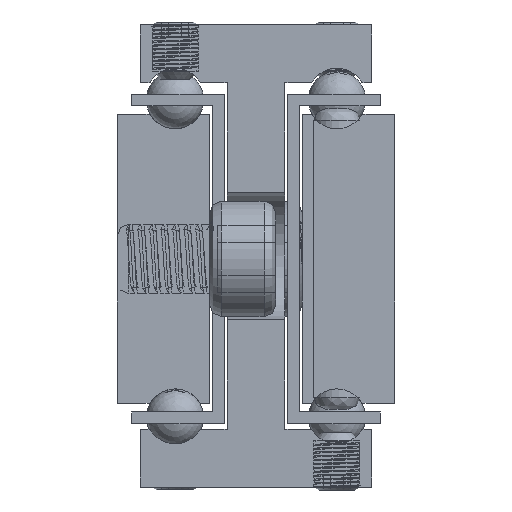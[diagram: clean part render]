
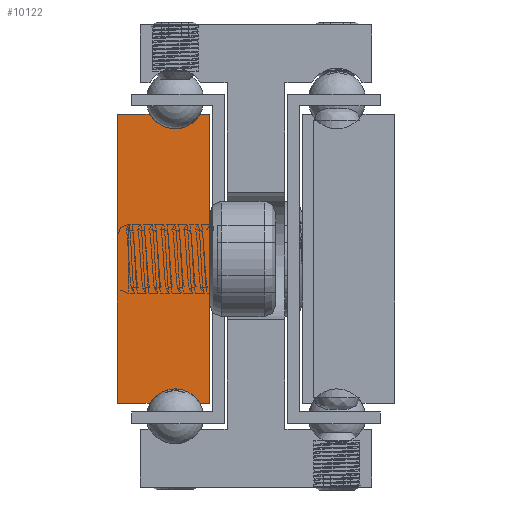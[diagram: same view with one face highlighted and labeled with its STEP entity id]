
A CAD part, front view. The second image highlights one B-rep face of the part: STEP entity #10122.
In plain terms, the highlighted planar face has unit normal (0, -1, 0).
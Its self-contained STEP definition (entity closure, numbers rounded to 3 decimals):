
#696=CIRCLE('',#10847,2.5);
#698=CIRCLE('',#10853,2.5);
#1238=FACE_OUTER_BOUND('',#1877,.T.);
#1877=EDGE_LOOP('',(#7287,#7288,#7289,#7290,#7291,#7292,#7293,#7294));
#2741=LINE('',#22548,#3671);
#2744=LINE('',#22554,#3674);
#2748=LINE('',#22566,#3678);
#2751=LINE('',#22572,#3681);
#2754=LINE('',#22578,#3684);
#2758=LINE('',#22588,#3688);
#3671=VECTOR('',#11837,1.);
#3674=VECTOR('',#11842,1.);
#3678=VECTOR('',#11854,1.);
#3681=VECTOR('',#11859,1.);
#3684=VECTOR('',#11864,1.);
#3688=VECTOR('',#11876,1.);
#4621=VERTEX_POINT('',#22545);
#4622=VERTEX_POINT('',#22547);
#4624=VERTEX_POINT('',#22553);
#4626=VERTEX_POINT('',#22559);
#4628=VERTEX_POINT('',#22565);
#4630=VERTEX_POINT('',#22571);
#4632=VERTEX_POINT('',#22577);
#4634=VERTEX_POINT('',#22583);
#5710=EDGE_CURVE('',#4622,#4621,#2741,.T.);
#5713=EDGE_CURVE('',#4624,#4622,#2744,.T.);
#5716=EDGE_CURVE('',#4626,#4624,#696,.T.);
#5719=EDGE_CURVE('',#4628,#4626,#2748,.T.);
#5722=EDGE_CURVE('',#4630,#4628,#2751,.T.);
#5725=EDGE_CURVE('',#4632,#4630,#2754,.T.);
#5728=EDGE_CURVE('',#4634,#4632,#698,.T.);
#5731=EDGE_CURVE('',#4621,#4634,#2758,.T.);
#7287=ORIENTED_EDGE('',*,*,#5731,.T.);
#7288=ORIENTED_EDGE('',*,*,#5728,.T.);
#7289=ORIENTED_EDGE('',*,*,#5725,.T.);
#7290=ORIENTED_EDGE('',*,*,#5722,.T.);
#7291=ORIENTED_EDGE('',*,*,#5719,.T.);
#7292=ORIENTED_EDGE('',*,*,#5716,.T.);
#7293=ORIENTED_EDGE('',*,*,#5713,.T.);
#7294=ORIENTED_EDGE('',*,*,#5710,.T.);
#9699=PLANE('',#10856);
#10122=ADVANCED_FACE('',(#1238),#9699,.T.);
#10847=AXIS2_PLACEMENT_3D('',#22560,#11848,#11849);
#10853=AXIS2_PLACEMENT_3D('',#22584,#11870,#11871);
#10856=AXIS2_PLACEMENT_3D('',#22590,#11879,#11880);
#11837=DIRECTION('',(0.,0.,-1.));
#11842=DIRECTION('',(-1.,0.,0.));
#11848=DIRECTION('center_axis',(0.,1.,0.));
#11849=DIRECTION('ref_axis',(-0.866,0.,-0.5));
#11854=DIRECTION('',(-1.,0.,0.));
#11859=DIRECTION('',(0.,0.,1.));
#11864=DIRECTION('',(1.,0.,0.));
#11870=DIRECTION('center_axis',(0.,1.,0.));
#11871=DIRECTION('ref_axis',(0.866,0.,0.5));
#11876=DIRECTION('',(1.,0.,0.));
#11879=DIRECTION('center_axis',(0.,-1.,0.));
#11880=DIRECTION('ref_axis',(1.,0.,0.));
#22545=CARTESIAN_POINT('',(2328.164,640.279,180.674));
#22547=CARTESIAN_POINT('',(2328.164,640.279,205.674));
#22548=CARTESIAN_POINT('',(2328.164,640.279,180.674));
#22553=CARTESIAN_POINT('',(2330.999,640.279,205.674));
#22554=CARTESIAN_POINT('',(2328.164,640.279,205.674));
#22559=CARTESIAN_POINT('',(2335.33,640.279,205.674));
#22560=CARTESIAN_POINT('Origin',(2333.164,640.279,206.924));
#22565=CARTESIAN_POINT('',(2336.164,640.279,205.674));
#22566=CARTESIAN_POINT('',(2335.33,640.279,205.674));
#22571=CARTESIAN_POINT('',(2336.164,640.279,180.674));
#22572=CARTESIAN_POINT('',(2336.164,640.279,205.674));
#22577=CARTESIAN_POINT('',(2335.33,640.279,180.674));
#22578=CARTESIAN_POINT('',(2336.164,640.279,180.674));
#22583=CARTESIAN_POINT('',(2330.999,640.279,180.674));
#22584=CARTESIAN_POINT('Origin',(2333.164,640.279,179.424));
#22588=CARTESIAN_POINT('',(2330.999,640.279,180.674));
#22590=CARTESIAN_POINT('Origin',(2332.152,640.279,193.174));
